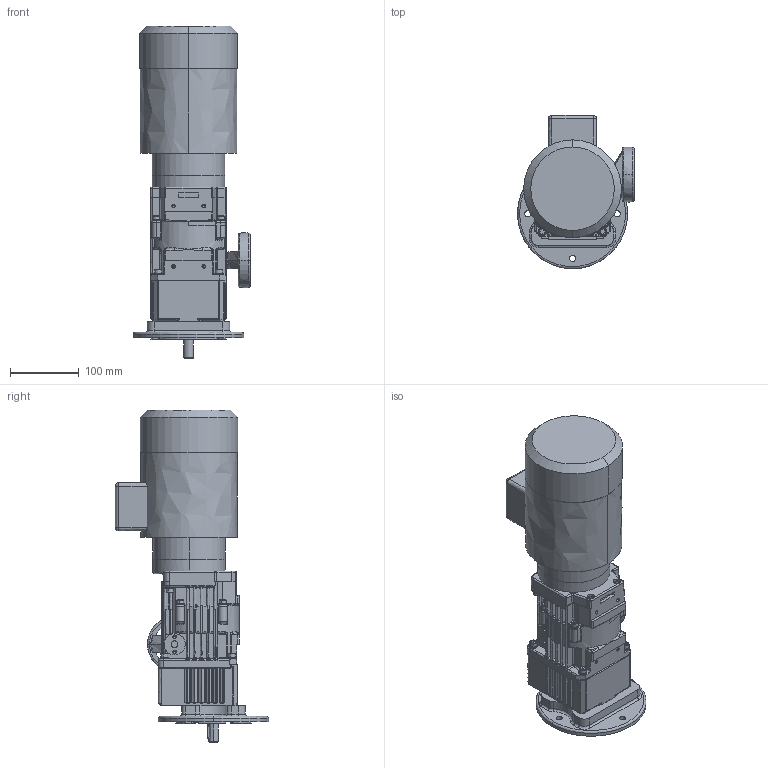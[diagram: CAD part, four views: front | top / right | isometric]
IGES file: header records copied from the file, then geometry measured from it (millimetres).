
Start section: Elysium IGES Interface
Global section: file name: G:\000_Arbeit\000_CAD\140_R4_Serie\01_ET_ZZ_US_SL\140_001_R4_Grundeinheit\R42_B5_HV_Motor_2D_3D.igs; native system: SolidDesigner 16.00A  16-Aug-2008; preprocessor: CoCreate IGES_3D V2.2; author: Unknown; organization: Unknown; date: 20081202.133029; units: millimetre
Bounding box: 170 x 222.5 x 482.5 mm (x, y, z)
Volume: 5471312 mm3; surface area: 403723.4 mm2
Topology: 2 solids, 4 shells, 1830 faces, 4452 edges, 2679 vertices
Faces by surface type: bspline 1830
